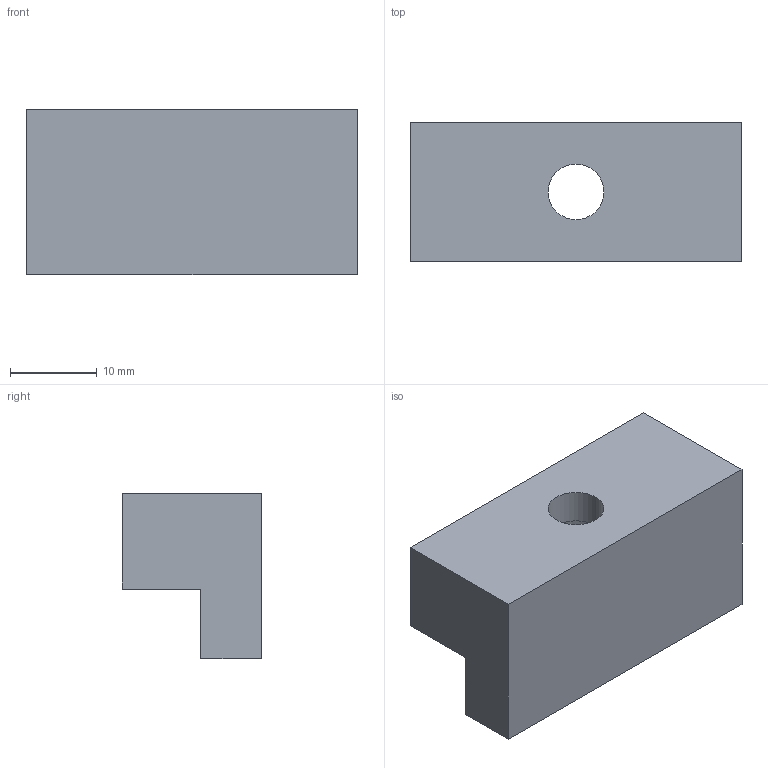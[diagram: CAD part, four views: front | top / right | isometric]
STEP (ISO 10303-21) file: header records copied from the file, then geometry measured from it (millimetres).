
FILE_DESCRIPTION((''),'2;1');
FILE_NAME('BO_VC_80035_00500NP001','2026-03-29T10:34:33',('Admin'),(''),'CREO PARAMETRIC BY PTC INC, 2025010','CREO PARAMETRIC BY PTC INC, 2025010','');
FILE_SCHEMA(('CONFIG_CONTROL_DESIGN'));
Length unit declared in the file: millimetre
Products named in the file (1): BO_VC_80035_00500NP001
Bounding box: 38 x 16 x 19 mm (x, y, z)
Volume: 7729.5 mm3; surface area: 3417.6 mm2
Topology: 1 solids, 1 shells, 14 faces, 36 edges, 24 vertices
Faces by surface type: plane 10, cylinder 4
Entity records: 472 total; most frequent: CARTESIAN_POINT 74, DIRECTION 74, ORIENTED_EDGE 72, EDGE_CURVE 36, VECTOR 26, LINE 26, AXIS2_PLACEMENT_3D 24, VERTEX_POINT 24
